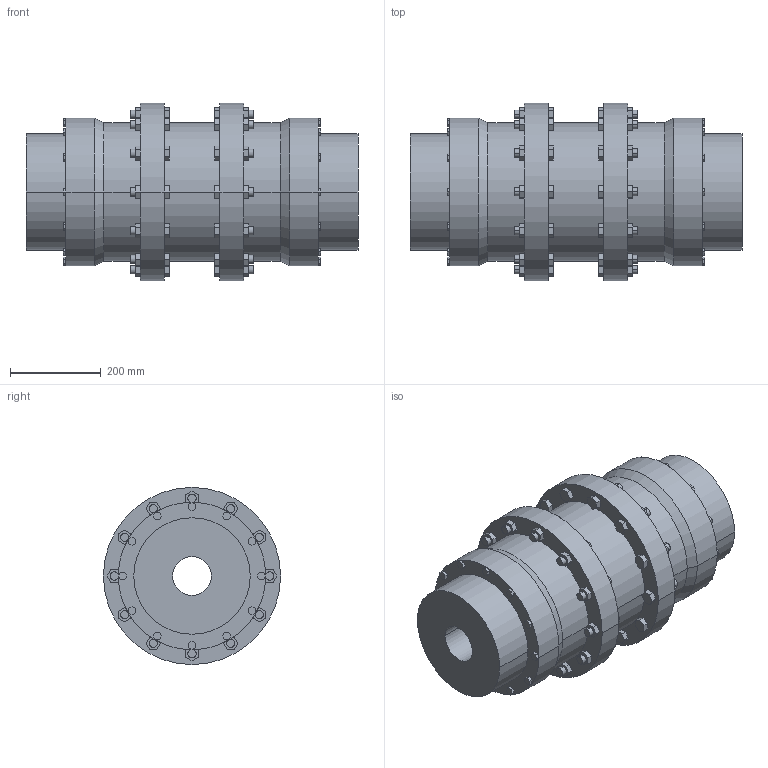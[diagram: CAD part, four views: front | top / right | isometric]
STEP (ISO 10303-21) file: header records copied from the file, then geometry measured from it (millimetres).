
FILE_DESCRIPTION((''),'2;1');
FILE_NAME('A19028900-0_ASM','2018-10-17T',('AB_Roschiwal'),('RENK AG'),'PRO/ENGINEER BY PARAMETRIC TECHNOLOGY CORPORATION, 2015440','PRO/ENGINEER BY PARAMETRIC TECHNOLOGY CORPORATION, 2015440','');
FILE_SCHEMA(('CONFIG_CONTROL_DESIGN'));
Length unit declared in the file: millimetre
Products named in the file (3): SBLK160_GEHAEUSE; SBLK160_NABE; A19028900-0_ASM
Assembly tree (3 placements, depth 2):
  A19028900-0_ASM
    SBLK160_GEHAEUSE
    SBLK160_NABE  x2
Bounding box: 731 x 390 x 390 mm (x, y, z)
Volume: 33040056.4 mm3; surface area: 2015500.1 mm2
Topology: 3 solids, 3 shells, 632 faces, 1552 edges, 1032 vertices
Faces by surface type: plane 544, cylinder 84, cone 4
Entity records: 18164 total; most frequent: CARTESIAN_POINT 3170, ORIENTED_EDGE 3056, DIRECTION 2932, EDGE_CURVE 1528, VECTOR 1376, LINE 1376, VERTEX_POINT 1016, AXIS2_PLACEMENT_3D 778
